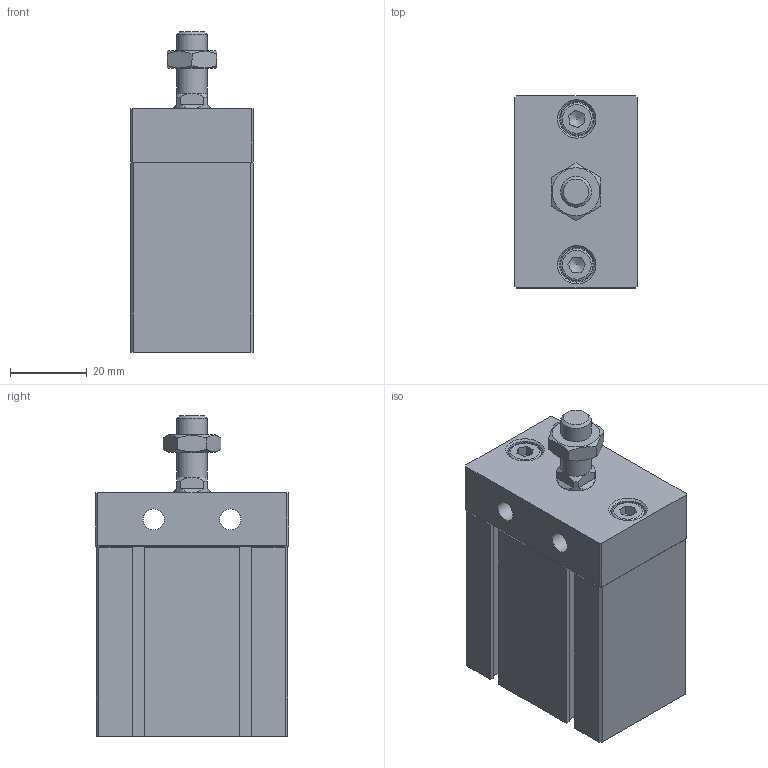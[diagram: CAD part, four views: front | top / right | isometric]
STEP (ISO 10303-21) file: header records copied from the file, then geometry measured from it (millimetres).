
FILE_DESCRIPTION((''),'2;1');
FILE_NAME('I:\3D電子目錄\氣缸\ND\ND\ND25-B\ND25x20-B.stp','2007-07-24T19:23:14',('Administrator'),(''),'Autodesk Inventor 11','Autodesk Inventor 11','');
FILE_SCHEMA(('AUTOMOTIVE_DESIGN { 1 0 10303 214 1 1 1 1 }'));
Length unit declared in the file: millimetre
Products named in the file (4): ND25-B; ISO 4762 M5 x 12; R 形環 28
Assembly tree (4 placements, depth 2):
  ND25-B
    ND25-B
    ISO 4762 M5 x 12  x2
    R 形環 28
Bounding box: 32 x 50.1 x 83.5 mm (x, y, z)
Volume: 94297.8 mm3; surface area: 21602.6 mm2
Topology: 5 solids, 5 shells, 177 faces, 411 edges, 261 vertices
Faces by surface type: plane 113, cylinder 27, cone 20, bspline 14, torus 3
Full cylindrical faces by diameter (mm): 1.5 x2, 1.9 x2, 5 x2, 5.5 x2, 8 x2, 8.5 x2, 9 x2, 17 x1, 28 x1, 29.4 x1
Entity records: 4577 total; most frequent: CARTESIAN_POINT 975, DIRECTION 714, ORIENTED_EDGE 668, EDGE_CURVE 334, AXIS2_PLACEMENT_3D 249, VERTEX_POINT 236, EDGE_LOOP 228, VECTOR 216
